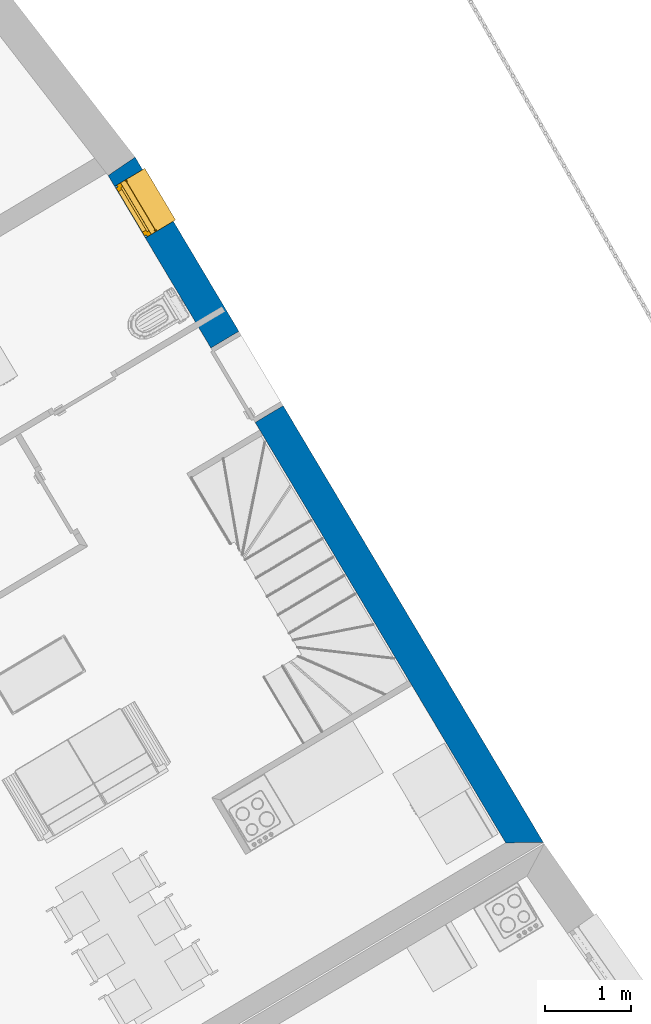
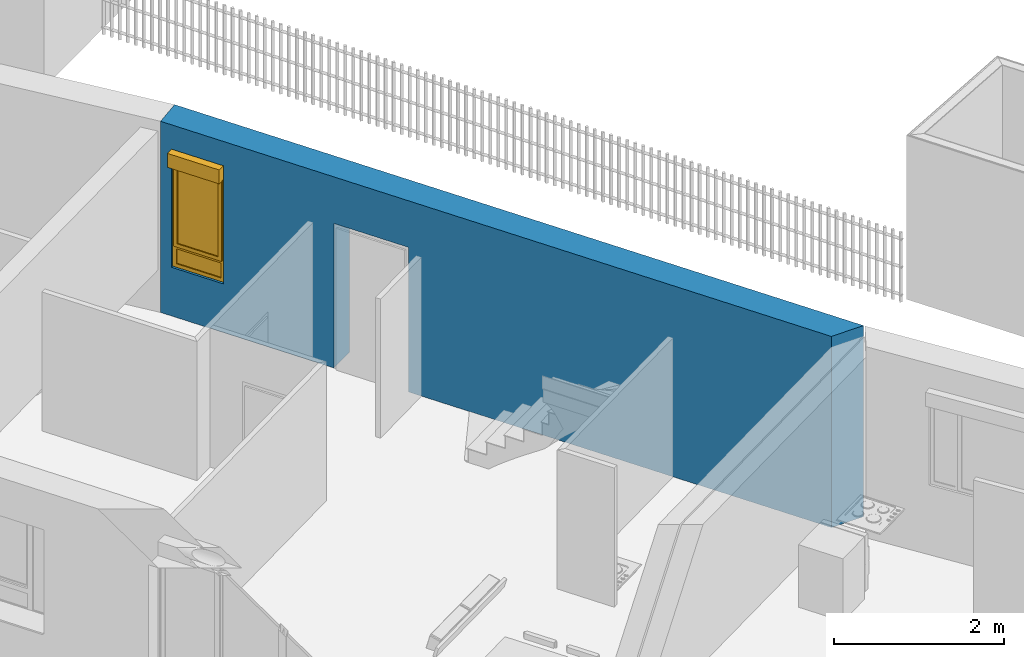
# One storey, part 47 of 195: 1 wall, 1 window, 2 openings.
"""IFC2X3 building model written with IfcOpenShell, lengths in metres."""

import ifcopenshell
import ifcopenshell.guid

model = None  # the IFC model being written
_history = None  # IfcOwnerHistory: only IFC2X3 demands one
_inside = {}  # id of a spatial element -> (the spatial element, [elements in it])
_under = {}  # id of a project, library or spatial element -> (it, [spatial elements below it])
_declared = {}  # id of a project -> (the project, [libraries it declares])
_typed = {}  # id of a type object -> (the type object, [elements of that type])
_made_of = {}  # id of a material, layer set ... -> (it, [elements and type objects made of it])


def new_model(schema):
    """Start an empty IFC model of exactly this schema.

    Asked for "IFC4X3", IfcOpenShell would pick the latest addendum, in which some entities
    have other attributes; the version numbers below select the first issue.
    IFC2X3 requires an IfcOwnerHistory on every rooted entity: one is made here for all.
    """
    global model, _history
    if schema == "IFC4X3":
        model = ifcopenshell.file(schema_version=(4, 3, 0, 0))
    else:
        model = ifcopenshell.file(schema=schema)
    _inside.clear()
    _under.clear()
    _declared.clear()
    _typed.clear()
    _made_of.clear()
    _history = None
    if model.schema == "IFC2X3":
        org = make("IfcOrganization", Name="unknown")
        user = make(
            "IfcPersonAndOrganization",
            ThePerson=make("IfcPerson", FamilyName="unknown"),
            TheOrganization=org,
        )
        app = make(
            "IfcApplication",
            ApplicationDeveloper=org,
            Version="unknown",
            ApplicationFullName="unknown",
            ApplicationIdentifier="unknown",
        )
        _history = make(
            "IfcOwnerHistory",
            OwningUser=user,
            OwningApplication=app,
            ChangeAction="ADDED",
            CreationDate=0,
        )
    return model


def make(cls, **values):
    """One entity of the class cls with the attributes given. An attribute that is None is left unset."""
    return model.create_entity(
        cls, **{name: value for name, value in values.items() if value is not None}
    )


def entity(cls, *values):
    """Any entity or typed value of the class cls, its attributes in the order of the schema. None: left unset."""
    e = model.create_entity(cls)
    for i, value in enumerate(values):
        if value is not None:
            e[i] = value
    return e


def rooted(cls, **values):
    """An entity with a GlobalId (a new one), such as an element, a storey or a relation."""
    return make(cls, GlobalId=ifcopenshell.guid.new(), OwnerHistory=_history, **values)


def si_unit(unit_type, name, prefix=None):
    """IfcSIUnit, for example si_unit("LENGTHUNIT", "METRE", prefix="MILLI")."""
    return make("IfcSIUnit", UnitType=unit_type, Prefix=prefix, Name=name)


def converted_unit(unit_type, name, factor, base, dimensions=None, offset=None):
    """IfcConversionBasedUnit, such as the inch: factor (a typed value) times the base unit."""
    return make(
        "IfcConversionBasedUnit"
        if offset is None
        else "IfcConversionBasedUnitWithOffset",
        ConversionOffset=offset,
        Dimensions=None
        if dimensions is None
        else entity("IfcDimensionalExponents", *dimensions),
        UnitType=unit_type,
        Name=name,
        ConversionFactor=make(
            "IfcMeasureWithUnit", ValueComponent=factor, UnitComponent=base
        ),
    )


def derived_unit(unit_type, elements):
    """IfcDerivedUnit: a product of units, each with its exponent."""
    return make(
        "IfcDerivedUnit",
        Elements=[
            make("IfcDerivedUnitElement", Unit=unit, Exponent=power)
            for unit, power in elements
        ],
        UnitType=unit_type,
    )


def money_unit(currency):
    """IfcMonetaryUnit."""
    return make("IfcMonetaryUnit", Currency=currency)


def assignment(units):
    """IfcUnitAssignment: the units of a project."""
    return None if units is None else make("IfcUnitAssignment", Units=units)


def point(xyz):
    """IfcCartesianPoint."""
    return None if xyz is None else make("IfcCartesianPoint", Coordinates=xyz)


def direction(xyz):
    """IfcDirection."""
    return None if xyz is None else make("IfcDirection", DirectionRatios=xyz)


def frame(location, z_axis=None, x_axis=None):
    """IfcAxis2Placement3D, a coordinate frame: its origin and axes. An axis left out is left unset."""
    return make(
        "IfcAxis2Placement3D",
        Location=point(location),
        Axis=direction(z_axis),
        RefDirection=direction(x_axis),
    )


def frame_2d(location, x_axis=None):
    """IfcAxis2Placement2D, a coordinate frame in the plane: its origin and x axis."""
    return make(
        "IfcAxis2Placement2D", Location=point(location), RefDirection=direction(x_axis)
    )


def origin_with_axes():
    """The frame at (0, 0, 0) with the z axis (0, 0, 1) and the x axis (1, 0, 0) written out."""
    return frame((0.0, 0.0, 0.0), z_axis=(0.0, 0.0, 1.0), x_axis=(1.0, 0.0, 0.0))


def origin_2d_with_axis():
    """The frame at (0, 0) in the plane with the x axis (1, 0) written out."""
    return frame_2d((0.0, 0.0), x_axis=(1.0, 0.0))


def place(relative_to, where):
    """IfcLocalPlacement: puts the frame where relative to a parent placement (None: the world)."""
    return make(
        "IfcLocalPlacement", PlacementRelTo=relative_to, RelativePlacement=where
    )


def context(
    kind, dimensions, precision=None, world=None, true_north=None, identifier=None
):
    """IfcGeometricRepresentationContext, for example the 3D "Model" context."""
    return make(
        "IfcGeometricRepresentationContext",
        ContextIdentifier=identifier,
        ContextType=kind,
        CoordinateSpaceDimension=dimensions,
        Precision=precision,
        WorldCoordinateSystem=world,
        TrueNorth=true_north,
    )


def subcontext(parent, identifier, kind, view, scale=None):
    """IfcGeometricRepresentationSubContext, for example "Body" below "Model"."""
    return make(
        "IfcGeometricRepresentationSubContext",
        ContextIdentifier=identifier,
        ContextType=kind,
        ParentContext=parent,
        TargetScale=scale,
        TargetView=view,
    )


def project(units=None, contexts=None):
    """IfcProject with its units and contexts."""
    return rooted(
        "IfcProject",
        Name="project",
        RepresentationContexts=contexts,
        UnitsInContext=assignment(units),
    )


def spatial(cls, under=None, at=None, **own):
    """A site, building, storey or space (cls), placed at a placement, below another one or the project."""
    s = rooted(cls, ObjectPlacement=at, **own)
    if under is not None:
        _under.setdefault(under.id(), (under, []))[1].append(s)
    return s


def polyline(points):
    """IfcPolyline through the points."""
    return make("IfcPolyline", Points=[point(p) for p in points])


def profile(cls, at=None, kind="AREA", **sizes):
    """A parametric profile (cls). Its sizes go by their IFC names, for example OverallWidth=200.0."""
    return make(cls, ProfileType=kind, Position=at, **sizes)


def rectangle(**sizes):
    """IfcRectangleProfileDef."""
    return profile("IfcRectangleProfileDef", **sizes)


def outline(outer, holes=None, kind="AREA"):
    """IfcArbitraryClosedProfileDef: a profile drawn as a closed curve; with holes, ...WithVoids."""
    if holes is None:
        return make("IfcArbitraryClosedProfileDef", ProfileType=kind, OuterCurve=outer)
    return make(
        "IfcArbitraryProfileDefWithVoids",
        ProfileType=kind,
        OuterCurve=outer,
        InnerCurves=holes,
    )


def extrude(swept, where, along, depth):
    """IfcExtrudedAreaSolid: the profile swept, set in the frame where, extruded along a direction by depth."""
    return make(
        "IfcExtrudedAreaSolid",
        SweptArea=swept,
        Position=where,
        ExtrudedDirection=direction(along),
        Depth=depth,
    )


def faces_of(points, faces, orient=None, outer=None):
    """IfcFace entities. A face is a list of loops; a loop is a list of indices into points, from 0.

    orient and outer hold one flag for each loop. By default every Orientation is true, the
    first loop of a face is its IfcFaceOuterBound and the others are IfcFaceBound.
    """
    made = []
    for i, loops in enumerate(faces):
        bounds = []
        for j, loop in enumerate(loops):
            is_outer = j == 0 if outer is None else outer[i][j]
            bounds.append(
                make(
                    "IfcFaceOuterBound" if is_outer else "IfcFaceBound",
                    Bound=make("IfcPolyLoop", Polygon=[points[k] for k in loop]),
                    Orientation=True if orient is None else orient[i][j],
                )
            )
        made.append(make("IfcFace", Bounds=bounds))
    return made


def open_shell(faces, orient=None, outer=None):
    """The faces of one IfcOpenShell. surface_model builds it on its shared points."""
    return ("IfcOpenShell", faces, orient, outer)


def faceted_brep(points, faces, orient=None, outer=None, voids=None):
    """IfcFacetedBrep: a solid bounded by flat faces; with voids (closed shells), ...WithVoids."""
    shared = [point(p) for p in points]
    hull = make("IfcClosedShell", CfsFaces=faces_of(shared, faces, orient, outer))
    if voids is None:
        return make("IfcFacetedBrep", Outer=hull)
    return make(
        "IfcFacetedBrepWithVoids",
        Outer=hull,
        Voids=[
            make(cls, CfsFaces=faces_of(shared, fs, o, b)) for cls, fs, o, b in voids
        ],
    )


def surface_model(cls, points, shells):
    """IfcFaceBasedSurfaceModel or IfcShellBasedSurfaceModel (cls): surfaces that need not close."""
    shared = [point(p) for p in points]
    made = [make(c, CfsFaces=faces_of(shared, fs, o, b)) for c, fs, o, b in shells]
    if cls == "IfcFaceBasedSurfaceModel":
        return make(cls, FbsmFaces=made)
    return make(cls, SbsmBoundary=made)


def shape(context_of_items, identifier, shape_type, items):
    """IfcShapeRepresentation: the items that make up one representation, for example the "Body"."""
    return make(
        "IfcShapeRepresentation",
        ContextOfItems=context_of_items,
        RepresentationIdentifier=identifier,
        RepresentationType=shape_type,
        Items=items,
    )


def source(mapping_origin, context_of_items, identifier, shape_type, items):
    """IfcRepresentationMap: a shape defined once, which mapped items show again and again."""
    return make(
        "IfcRepresentationMap",
        MappingOrigin=mapping_origin,
        MappedRepresentation=shape(context_of_items, identifier, shape_type, items),
    )


def transform(
    local_origin,
    x_axis=None,
    y_axis=None,
    z_axis=None,
    scale=None,
    scale2=None,
    scale3=None,
    uniform=True,
):
    """IfcCartesianTransformationOperator3D, or its non-uniform kind. x_axis, y_axis, z_axis: its Axis1, 2, 3."""
    if uniform:
        return make(
            "IfcCartesianTransformationOperator3D",
            Axis1=direction(x_axis),
            Axis2=direction(y_axis),
            LocalOrigin=point(local_origin),
            Scale=scale,
            Axis3=direction(z_axis),
        )
    return make(
        "IfcCartesianTransformationOperator3DnonUniform",
        Axis1=direction(x_axis),
        Axis2=direction(y_axis),
        LocalOrigin=point(local_origin),
        Scale=scale,
        Axis3=direction(z_axis),
        Scale2=scale2,
        Scale3=scale3,
    )


def mapped(mapping_source, mapping_target):
    """IfcMappedItem: shows the shape of a source again, moved by a transform."""
    return make(
        "IfcMappedItem", MappingSource=mapping_source, MappingTarget=mapping_target
    )


def material(Name=None, Category=None):
    """IfcMaterial."""
    return make("IfcMaterial", Name=Name, Category=Category)


def layer(
    of_material, thickness, ventilated=None, Name=None, Category=None, Priority=None
):
    """IfcMaterialLayer: one layer of a wall or slab, of a material (None: an air gap)."""
    return make(
        "IfcMaterialLayer",
        Material=of_material,
        LayerThickness=thickness,
        IsVentilated=ventilated,
        Name=Name,
        Category=Category,
        Priority=Priority,
    )


def layer_set(layers, Name=None):
    """IfcMaterialLayerSet."""
    return make("IfcMaterialLayerSet", MaterialLayers=layers, LayerSetName=Name)


def layer_usage(for_layer_set, set_direction, sense, offset, extent=None):
    """IfcMaterialLayerSetUsage: how a layer set lies in its element."""
    return make(
        "IfcMaterialLayerSetUsage",
        ForLayerSet=for_layer_set,
        LayerSetDirection=set_direction,
        DirectionSense=sense,
        OffsetFromReferenceLine=offset,
        ReferenceExtent=extent,
    )


def made_of(thing, what):
    """Note that an element or type object is made of a material, layer set ...; save() writes the relation."""
    if what is not None:
        _made_of.setdefault(what.id(), (what, []))[1].append(thing)
    return thing


def type_object(cls, material=None, **own):
    """A type object (cls), such as IfcWallType, which elements share."""
    return made_of(rooted(cls, **own), material)


def element(
    cls,
    number,
    at=None,
    inside=None,
    cuts=None,
    type_object=None,
    material=None,
    context=None,
    identifier="Body",
    shape_type=None,
    held_by="IfcProductDefinitionShape",
    body=None,
    shapes=None,
    **own,
):
    """One element of the class cls, such as IfcWall. Its Tag is "e" and its number.

    at: its placement. inside: the storey or other place that contains it. cuts: it is an
    opening in that element (IfcRelVoidsElement). A single representation is given by context,
    identifier, shape_type and body (its items); several are given by shapes. held_by: the class
    of the entity that holds the representations. save() writes the other relations.
    """
    e = rooted(cls, Tag="e%d" % number, ObjectPlacement=at, **own)
    if body is not None:
        shapes = [shape(context, identifier, shape_type, body)]
    if shapes is not None:
        e.Representation = make(held_by, Representations=shapes)
    if inside is not None:
        _inside.setdefault(inside.id(), (inside, []))[1].append(e)
    if cuts is not None:
        rooted(
            "IfcRelVoidsElement", RelatingBuildingElement=cuts, RelatedOpeningElement=e
        )
    if type_object is not None:
        _typed.setdefault(type_object.id(), (type_object, []))[1].append(e)
    return made_of(e, material)


def fill(opening, filler):
    """IfcRelFillsElement: the door or window that sits in an opening."""
    return rooted(
        "IfcRelFillsElement",
        RelatingOpeningElement=opening,
        RelatedBuildingElement=filler,
    )


def aggregate(whole, parts):
    """IfcRelAggregates: a whole, such as a stair, and the parts it consists of."""
    return rooted("IfcRelAggregates", RelatingObject=whole, RelatedObjects=parts)


def save(model, path):
    """Write the relations noted so far, then the file.

    IfcRelAggregates (storeys below a building ...), IfcRelContainedInSpatialStructure (elements
    in a storey), IfcRelDefinesByType, IfcRelAssociatesMaterial and IfcRelDeclares: one each for
    every whole, place, type object, material and project.
    """
    for whole, parts in _under.values():
        aggregate(whole, parts)
    for where, things in _inside.values():
        rooted(
            "IfcRelContainedInSpatialStructure",
            RelatedElements=things,
            RelatingStructure=where,
        )
    for kind, things in _typed.values():
        rooted("IfcRelDefinesByType", RelatedObjects=things, RelatingType=kind)
    for what, things in _made_of.values():
        rooted("IfcRelAssociatesMaterial", RelatedObjects=things, RelatingMaterial=what)
    for by, libraries in _declared.values():
        rooted("IfcRelDeclares", RelatingContext=by, RelatedDefinitions=libraries)
    model.write(path)


model = new_model("IFC2X3")

# Units and contexts
model_context = context("Model", 3, precision=1e-05, world=origin_with_axes(), true_north=direction((0.0, 1.0)))
body_context = subcontext(model_context, "Body", "Model", "MODEL_VIEW")
ifc_project = project(units=[si_unit("LENGTHUNIT", "METRE"), si_unit("AREAUNIT", "SQUARE_METRE"), si_unit("VOLUMEUNIT", "CUBIC_METRE"), converted_unit("PLANEANGLEUNIT", "DEGREE", entity("IfcPlaneAngleMeasure", 0.0174532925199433), si_unit("PLANEANGLEUNIT", "RADIAN"), dimensions=[0, 0, 0, 0, 0, 0, 0]), money_unit("CHF"), converted_unit("TIMEUNIT", "Year", entity("IfcTimeMeasure", 31557600.0), si_unit("TIMEUNIT", "SECOND"), dimensions=[0, 0, 1, 0, 0, 0, 0]), si_unit("MASSUNIT", "GRAM", prefix="KILO"), si_unit("THERMODYNAMICTEMPERATUREUNIT", "DEGREE_CELSIUS"), si_unit("LUMINOUSINTENSITYUNIT", "LUMEN"), si_unit("ENERGYUNIT", "JOULE", prefix="MEGA"), derived_unit("THERMALCONDUCTANCEUNIT", [(si_unit("POWERUNIT", "WATT"), 1), (si_unit("LENGTHUNIT", "METRE"), -1), (si_unit("THERMODYNAMICTEMPERATUREUNIT", "KELVIN"), -1)]), derived_unit("SPECIFICHEATCAPACITYUNIT", [(si_unit("ENERGYUNIT", "JOULE"), 1), (si_unit("MASSUNIT", "GRAM", prefix="KILO"), -1), (si_unit("THERMODYNAMICTEMPERATUREUNIT", "KELVIN"), -1)]), derived_unit("MASSDENSITYUNIT", [(si_unit("MASSUNIT", "GRAM", prefix="KILO"), 1), (si_unit("VOLUMEUNIT", "CUBIC_METRE"), -1)])], contexts=[model_context])

# Site, building, storey
site_placement = place(None, origin_with_axes())
site = spatial("IfcSite", under=ifc_project, at=site_placement, Name="Site", CompositionType="ELEMENT")
building_placement = place(site_placement, origin_with_axes())
building = spatial("IfcBuilding", under=site, at=building_placement, Name="Bâtiment", CompositionType="ELEMENT")
storey_placement = place(building_placement, origin_with_axes())
storey = spatial("IfcBuildingStorey", under=building, at=storey_placement, Name="rdc", CompositionType="ELEMENT", Elevation=0.0)

# Wall, openings, window
ifc_material_1 = material(Name="Parpaing 312445824")
ifc_layer_1 = layer(ifc_material_1, 0.22, ventilated="UNKNOWN")
ifc_material_2 = material(Name="Isolant styromousse 301821074")
ifc_layer_2 = layer(ifc_material_2, 0.16, ventilated="UNKNOWN")
ifc_layer_set = layer_set([ifc_layer_1, ifc_layer_2], Name="isol int 22+16 0836643197")
ifc_layer_usage = layer_usage(ifc_layer_set, "AXIS2", "POSITIVE", 0.0)
wall_type = type_object("IfcWallType", Name="isol int 22+16 0836643197 380", PredefinedType="NOTDEFINED")
wall_placement = place(storey_placement, frame((9549.820148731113, -1051.269473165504, 57.7), z_axis=(0.0, 0.0, 1.0), x_axis=(-0.5118298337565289, 0.8590868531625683, 0.0)))
wall = element("IfcWallStandardCase", 1, at=wall_placement, inside=storey, type_object=wall_type, material=ifc_layer_usage, Name="Mur-112", context=body_context, shape_type="SweptSolid", body=[
    extrude(outline(polyline([(0.0, 0.0), (9.30089494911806, 0.0), (9.277642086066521, 0.3799999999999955), (0.2200000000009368, 0.3799999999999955), (0.0, 0.0)])), origin_with_axes(), (0.0, 0.0, 1.0), 2.75),
])
opening_1_placement = place(wall_placement, frame((8.780433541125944, 0.0, 0.7000000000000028), z_axis=(0.0, 0.0, 1.0), x_axis=(1.0, 0.0, 0.0)))
opening_1 = element("IfcOpeningElement", 2, at=opening_1_placement, cuts=wall, Name="Fen-050", context=body_context, shape_type="Brep", body=[
    faceted_brep([(0.3500000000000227, 0.2200000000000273, 1.5), (-0.3500000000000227, 0.2200000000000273, 1.5), (-0.3499999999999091, -4.090661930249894, 1.5), (0.3500000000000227, -4.090661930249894, 1.5), (0.3500000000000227, 0.2200000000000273, 1.700000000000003), (-0.3500000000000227, 0.2200000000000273, 1.700000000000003), (-0.3500000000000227, 0.2999999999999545, 1.5), (-0.3500000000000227, 0.2999999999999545, 0.0), (-0.3499999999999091, -4.090661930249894, 0.0), (0.3500000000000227, -4.090661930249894, 0.0), (0.3500000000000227, 0.3000000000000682, 1.5), (0.3500000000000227, 0.3000000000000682, 0.0), (0.3500000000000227, 0.4800000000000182, 1.5), (0.3500000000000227, 0.4800000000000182, 1.700000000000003), (-0.3500000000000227, 0.4799999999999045, 1.700000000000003), (-0.3500000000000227, 0.4799999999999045, 1.5), (-0.3499999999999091, 4.470661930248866, 1.5), (-0.3499999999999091, 4.470661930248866, 0.0), (0.3500000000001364, 4.47066193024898, 0.0), (0.3500000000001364, 4.47066193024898, 1.5)], [[[0, 1, 2, 3]], [[1, 0, 4, 5]], [[1, 6, 7, 8, 2]], [[2, 8, 9, 3]], [[10, 0, 3, 9, 11]], [[0, 10, 12, 13, 4]], [[4, 13, 14, 5]], [[6, 1, 5, 14, 15]], [[6, 15, 16, 17, 7]], [[7, 11, 9, 8]], [[12, 10, 11, 18, 19]], [[12, 15, 14, 13]], [[15, 12, 19, 16]], [[19, 18, 17, 16]], [[11, 7, 17, 18]]]),
])
opening_2_placement = place(wall_placement, frame((6.432047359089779, 0.0, 0.0), z_axis=(0.0, 0.0, 1.0), x_axis=(1.0, 0.0, 0.0)))
element("IfcOpeningElement", 3, at=opening_2_placement, cuts=wall, Name="Por-300", context=body_context, shape_type="SweptSolid", body=[
    extrude(rectangle(XDim=1.01000001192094, YDim=2.079999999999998, at=origin_2d_with_axis()), frame((5.960373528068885e-09, -0.3799999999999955, 1.039999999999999), z_axis=(0.0, 1.0, 0.0), x_axis=(1.0, 0.0, 0.0)), (0.0, 0.0, 1.0), 0.76),
])
window_style = type_object("IfcWindowStyle", Name="Fenêtre variable 27", ConstructionType="NOTDEFINED", OperationType="DOUBLE_PANEL_HORIZONTAL", ParameterTakesPrecedence=False, Sizeable=False)
shared_shape = source(origin_with_axes(), body_context, "Body", "SurfaceModel", [
    surface_model("IfcShellBasedSurfaceModel", [(-0.3499999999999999, -0.05099999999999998, 0.05), (-0.3499999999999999, -0.05099999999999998, 0.04), (0.3499999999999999, -0.05100000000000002, 0.04000000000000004), (0.3499999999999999, -0.05100000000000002, 0.05000000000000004), (-0.3499999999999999, -0.3799999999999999, 0.02899999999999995), (0.3499999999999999, -0.3799999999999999, 0.02899999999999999), (-0.3499999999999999, -0.3799999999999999, 0.008999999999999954), (0.3499999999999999, -0.3799999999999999, 0.008999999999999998), (-0.3499999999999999, -0.3699999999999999, 0.01899999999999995), (0.3499999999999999, -0.3699999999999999, 0.019)], [open_shell([[[0, 1, 2, 3]], [[1, 4, 5, 2]], [[4, 6, 7, 5]], [[6, 8, 9, 7]]])]),
    faceted_brep([(-0.3499999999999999, -0.1299999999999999, 1.7), (-0.3469999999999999, -0.1299999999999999, 1.7), (-0.3469999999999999, 0.13, 1.7), (-0.3499999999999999, 0.13, 1.7), (-0.3499999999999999, -0.1299999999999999, 1.5), (-0.3469999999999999, -0.1299999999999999, 1.5), (-0.3469999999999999, 0.13, 1.5), (-0.3499999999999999, 0.13, 1.5)], [[[0, 1, 2, 3]], [[4, 5, 1, 0]], [[1, 5, 6, 2]], [[3, 2, 6, 7]], [[0, 3, 7, 4]], [[7, 6, 5, 4]]]),
    faceted_brep([(0.3469999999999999, -0.1299999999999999, 1.7), (0.3499999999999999, -0.1299999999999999, 1.7), (0.3499999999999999, 0.13, 1.7), (0.3469999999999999, 0.13, 1.7), (0.3469999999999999, -0.1299999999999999, 1.5), (0.3499999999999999, -0.1299999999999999, 1.5), (0.3499999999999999, 0.13, 1.5), (0.3469999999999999, 0.13, 1.5)], [[[0, 1, 2, 3]], [[4, 5, 1, 0]], [[1, 5, 6, 2]], [[3, 2, 6, 7]], [[0, 3, 7, 4]], [[7, 6, 5, 4]]]),
    faceted_brep([(-0.3469999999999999, -0.1299999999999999, 1.5), (0.3469999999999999, -0.1299999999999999, 1.5), (0.3469999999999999, -0.1299999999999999, 1.7), (-0.3469999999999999, -0.1299999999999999, 1.7), (-0.3469999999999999, -0.1269999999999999, 1.5), (0.3469999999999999, -0.127, 1.5), (0.3469999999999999, -0.127, 1.697), (0.3469999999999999, 0.127, 1.697), (0.3469999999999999, 0.127, 1.503), (0.3469999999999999, -0.108, 1.503), (0.3469999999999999, -0.108, 1.5), (0.3469999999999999, 0.13, 1.5), (0.3469999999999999, 0.13, 1.7), (-0.3469999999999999, 0.13, 1.7), (-0.3469999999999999, 0.13, 1.5), (-0.3469999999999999, -0.108, 1.5), (-0.3469999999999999, -0.108, 1.503), (-0.3469999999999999, 0.127, 1.503), (-0.3469999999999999, 0.127, 1.697), (-0.3469999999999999, -0.1269999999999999, 1.697)], [[[0, 1, 2, 3]], [[4, 5, 1, 0]], [[1, 5, 6, 7, 8, 9, 10, 11, 12, 2]], [[3, 2, 12, 13]], [[0, 3, 13, 14, 15, 16, 17, 18, 19, 4]], [[19, 6, 5, 4]], [[18, 7, 6, 19]], [[17, 8, 7, 18]], [[16, 9, 8, 17]], [[15, 10, 9, 16]], [[14, 11, 10, 15]], [[13, 12, 11, 14]]]),
    faceted_brep([(-0.3439999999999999, -0.08075423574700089, 1.585760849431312), (-0.3439999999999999, -0.08199999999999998, 1.6), (-0.3439999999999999, -0.08075423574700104, 1.614239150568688), (-0.3439999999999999, -0.07705479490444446, 1.628045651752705), (-0.3439999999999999, -0.07101408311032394, 1.641), (-0.3439999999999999, -0.06281564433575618, 1.652708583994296), (-0.3439999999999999, -0.05270858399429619, 1.662815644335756), (-0.3439999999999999, -0.04099999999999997, 1.671014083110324), (-0.3439999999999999, -0.02804565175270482, 1.677054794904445), (-0.3439999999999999, -0.01423915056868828, 1.680754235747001), (-0.3439999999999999, 0.0, 1.682), (-0.3439999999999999, 0.01423915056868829, 1.680754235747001), (-0.3439999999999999, 0.02804565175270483, 1.677054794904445), (-0.3439999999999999, 0.04099999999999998, 1.671014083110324), (-0.3439999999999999, 0.0527085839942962, 1.662815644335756), (-0.3439999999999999, 0.06281564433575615, 1.652708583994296), (-0.3439999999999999, 0.07101408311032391, 1.641), (-0.3439999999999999, 0.07705479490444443, 1.628045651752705), (-0.3439999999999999, 0.080754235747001, 1.614239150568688), (-0.3439999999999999, 0.08199999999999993, 1.6), (-0.3439999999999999, 0.08075423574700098, 1.585760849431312), (-0.3439999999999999, 0.07705479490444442, 1.571954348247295), (-0.3439999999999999, 0.0710140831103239, 1.559), (-0.3439999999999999, 0.06281564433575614, 1.547291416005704), (-0.3439999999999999, 0.05270858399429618, 1.537184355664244), (-0.3439999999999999, 0.04099999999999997, 1.528985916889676), (-0.3439999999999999, 0.02804565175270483, 1.522945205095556), (-0.3439999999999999, 0.0142391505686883, 1.519245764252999), (-0.3439999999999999, 0.0, 1.518), (-0.3439999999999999, -0.01423915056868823, 1.519245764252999), (-0.3439999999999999, -0.02804565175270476, 1.522945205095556), (-0.3439999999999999, -0.04099999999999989, 1.528985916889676), (-0.3439999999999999, -0.05270858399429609, 1.537184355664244), (-0.3439999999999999, -0.06281564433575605, 1.547291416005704), (-0.3439999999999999, -0.0710140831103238, 1.559), (-0.3439999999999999, -0.07705479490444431, 1.571954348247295), (0.3439999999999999, -0.08075423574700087, 1.585760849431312), (0.3439999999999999, -0.08199999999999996, 1.6), (0.3439999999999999, -0.08075423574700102, 1.614239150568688), (0.3439999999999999, -0.07705479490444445, 1.628045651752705), (0.3439999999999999, -0.07101408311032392, 1.641), (0.3439999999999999, -0.06281564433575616, 1.652708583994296), (0.3439999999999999, -0.05270858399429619, 1.662815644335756), (0.3439999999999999, -0.04099999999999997, 1.671014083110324), (0.3439999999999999, -0.02804565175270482, 1.677054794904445), (0.3439999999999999, -0.01423915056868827, 1.680754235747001), (0.3439999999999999, 0.0, 1.682), (0.3439999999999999, 0.01423915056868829, 1.680754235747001), (0.3439999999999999, 0.02804565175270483, 1.677054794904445), (0.3439999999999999, 0.04099999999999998, 1.671014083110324), (0.3439999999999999, 0.0527085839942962, 1.662815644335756), (0.3439999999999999, 0.06281564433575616, 1.652708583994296), (0.3439999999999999, 0.07101408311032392, 1.641), (0.3439999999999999, 0.07705479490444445, 1.628045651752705), (0.3439999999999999, 0.08075423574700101, 1.614239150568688), (0.3439999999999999, 0.08199999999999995, 1.6), (0.3439999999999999, 0.080754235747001, 1.585760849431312), (0.3439999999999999, 0.07705479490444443, 1.571954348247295), (0.3439999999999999, 0.07101408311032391, 1.559), (0.3439999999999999, 0.06281564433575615, 1.547291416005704), (0.3439999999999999, 0.05270858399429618, 1.537184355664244), (0.3439999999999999, 0.04099999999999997, 1.528985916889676), (0.3439999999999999, 0.02804565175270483, 1.522945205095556), (0.3439999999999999, 0.0142391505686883, 1.519245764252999), (0.3439999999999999, 0.0, 1.518), (0.3439999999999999, -0.01423915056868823, 1.519245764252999), (0.3439999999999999, -0.02804565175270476, 1.522945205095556), (0.3439999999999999, -0.04099999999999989, 1.528985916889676), (0.3439999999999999, -0.05270858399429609, 1.537184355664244), (0.3439999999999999, -0.06281564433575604, 1.547291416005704), (0.3439999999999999, -0.07101408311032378, 1.559), (0.3439999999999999, -0.0770547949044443, 1.571954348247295)], [[[0, 1, 2, 3, 4, 5, 6, 7, 8, 9, 10, 11, 12, 13, 14, 15, 16, 17, 18, 19, 20, 21, 22, 23, 24, 25, 26, 27, 28, 29, 30, 31, 32, 33, 34, 35]], [[0, 36, 37, 1]], [[1, 37, 38, 2]], [[2, 38, 39, 3]], [[3, 39, 40, 4]], [[4, 40, 41, 5]], [[5, 41, 42, 6]], [[6, 42, 43, 7]], [[7, 43, 44, 8]], [[8, 44, 45, 9]], [[9, 45, 46, 10]], [[10, 46, 47, 11]], [[11, 47, 48, 12]], [[12, 48, 49, 13]], [[13, 49, 50, 14]], [[14, 50, 51, 15]], [[15, 51, 52, 16]], [[16, 52, 53, 17]], [[17, 53, 54, 18]], [[18, 54, 55, 19]], [[19, 55, 56, 20]], [[20, 56, 57, 21]], [[21, 57, 58, 22]], [[22, 58, 59, 23]], [[23, 59, 60, 24]], [[24, 60, 61, 25]], [[25, 61, 62, 26]], [[26, 62, 63, 27]], [[27, 63, 64, 28]], [[28, 64, 65, 29]], [[29, 65, 66, 30]], [[30, 66, 67, 31]], [[31, 67, 68, 32]], [[32, 68, 69, 33]], [[33, 69, 70, 34]], [[34, 70, 71, 35]], [[35, 71, 36, 0]], [[36, 71, 70, 69, 68, 67, 66, 65, 64, 63, 62, 61, 60, 59, 58, 57, 56, 55, 54, 53, 52, 51, 50, 49, 48, 47, 46, 45, 44, 43, 42, 41, 40, 39, 38, 37]]]),
    faceted_brep([(0.3499999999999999, -0.105, 0.03), (0.3499999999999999, -0.1049999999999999, 1.5), (0.3499999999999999, -0.1299999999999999, 1.5), (0.3499999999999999, -0.13, 0.03), (0.3249999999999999, -0.105, 0.03), (0.3249999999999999, -0.1049999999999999, 1.5), (0.3249999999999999, -0.1079999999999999, 1.5), (0.3469999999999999, -0.1079999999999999, 1.5), (0.3469999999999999, -0.1269999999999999, 1.5), (0.3249999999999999, -0.1269999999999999, 1.5), (0.3249999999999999, -0.1299999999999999, 1.5), (0.3249999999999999, -0.13, 0.03), (0.3249999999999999, -0.127, 0.03), (0.3469999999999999, -0.127, 0.03), (0.3469999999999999, -0.108, 0.03), (0.3249999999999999, -0.108, 0.03)], [[[0, 1, 2, 3]], [[4, 5, 1, 0]], [[1, 5, 6, 7, 8, 9, 10, 2]], [[3, 2, 10, 11]], [[0, 3, 11, 12, 13, 14, 15, 4]], [[15, 6, 5, 4]], [[14, 7, 6, 15]], [[13, 8, 7, 14]], [[12, 9, 8, 13]], [[11, 10, 9, 12]]]),
    faceted_brep([(-0.3499999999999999, -0.105, 0.03), (-0.3499999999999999, -0.1299999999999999, 0.03), (-0.3499999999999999, -0.1299999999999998, 1.5), (-0.3499999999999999, -0.1049999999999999, 1.5), (-0.3249999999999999, -0.105, 0.03), (-0.3249999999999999, -0.108, 0.03), (-0.3469999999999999, -0.108, 0.03), (-0.3469999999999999, -0.1269999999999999, 0.03), (-0.3249999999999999, -0.1269999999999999, 0.03), (-0.3249999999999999, -0.1299999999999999, 0.03), (-0.3249999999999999, -0.1299999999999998, 1.5), (-0.3249999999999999, -0.1269999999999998, 1.5), (-0.3469999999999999, -0.1269999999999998, 1.5), (-0.3469999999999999, -0.1079999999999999, 1.5), (-0.3249999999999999, -0.1079999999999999, 1.5), (-0.3249999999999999, -0.1049999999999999, 1.5)], [[[0, 1, 2, 3]], [[0, 4, 5, 6, 7, 8, 9, 1]], [[1, 9, 10, 2]], [[3, 2, 10, 11, 12, 13, 14, 15]], [[4, 0, 3, 15]], [[5, 4, 15, 14]], [[6, 5, 14, 13]], [[7, 6, 13, 12]], [[8, 7, 12, 11]], [[9, 8, 11, 10]]]),
    surface_model("IfcShellBasedSurfaceModel", [(-0.3469999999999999, -0.115, 1.6), (0.3469999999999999, -0.1149999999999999, 1.6), (0.3469999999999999, -0.12, 1.6), (-0.3469999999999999, -0.12, 1.6), (-0.3469999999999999, -0.115, 1.6), (-0.3469999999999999, -0.12, 1.6), (0.3469999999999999, -0.12, 1.6), (0.3469999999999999, -0.115, 1.6)], [open_shell([[[0, 1, 2, 3]], [[4, 5, 6, 7]]])]),
    faceted_brep([(-0.3469999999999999, -0.115, 1.6), (0.3469999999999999, -0.1149999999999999, 1.6), (0.3469999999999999, -0.1166666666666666, 1.583333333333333), (-0.3469999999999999, -0.1166666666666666, 1.583333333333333), (-0.3469999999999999, -0.12, 1.6), (0.3469999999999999, -0.12, 1.6), (0.3469999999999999, -0.1216666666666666, 1.583333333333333), (0.3469999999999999, -0.1216666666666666, 1.566666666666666), (0.3469999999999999, -0.12, 1.55), (0.3469999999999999, -0.1149999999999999, 1.55), (0.3469999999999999, -0.1166666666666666, 1.566666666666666), (-0.3469999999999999, -0.1166666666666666, 1.566666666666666), (-0.3469999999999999, -0.115, 1.55), (-0.3469999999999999, -0.12, 1.55), (-0.3469999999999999, -0.1216666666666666, 1.566666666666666), (-0.3469999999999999, -0.1216666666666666, 1.583333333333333)], [[[0, 1, 2, 3]], [[4, 5, 1, 0]], [[1, 5, 6, 7, 8, 9, 10, 2]], [[3, 2, 10, 11]], [[0, 3, 11, 12, 13, 14, 15, 4]], [[15, 6, 5, 4]], [[14, 7, 6, 15]], [[13, 8, 7, 14]], [[12, 9, 8, 13]], [[11, 10, 9, 12]]]),
    faceted_brep([(-0.3469999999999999, -0.115, 1.55), (0.3469999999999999, -0.1149999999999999, 1.55), (0.3469999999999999, -0.1166666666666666, 1.533333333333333), (-0.3469999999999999, -0.1166666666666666, 1.533333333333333), (-0.3469999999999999, -0.12, 1.55), (0.3469999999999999, -0.12, 1.55), (0.3469999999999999, -0.1216666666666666, 1.533333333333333), (0.3469999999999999, -0.1216666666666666, 1.516666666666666), (0.3469999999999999, -0.12, 1.5), (0.3469999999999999, -0.1149999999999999, 1.5), (0.3469999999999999, -0.1166666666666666, 1.516666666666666), (-0.3469999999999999, -0.1166666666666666, 1.516666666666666), (-0.3469999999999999, -0.115, 1.5), (-0.3469999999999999, -0.12, 1.5), (-0.3469999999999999, -0.1216666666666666, 1.516666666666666), (-0.3469999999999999, -0.1216666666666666, 1.533333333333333)], [[[0, 1, 2, 3]], [[4, 5, 1, 0]], [[1, 5, 6, 7, 8, 9, 10, 2]], [[3, 2, 10, 11]], [[0, 3, 11, 12, 13, 14, 15, 4]], [[15, 6, 5, 4]], [[14, 7, 6, 15]], [[13, 8, 7, 14]], [[12, 9, 8, 13]], [[11, 10, 9, 12]]]),
    faceted_brep([(-0.325, 0.0, 1.45), (-0.3499999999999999, 0.0, 1.45), (-0.3499999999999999, -0.05000000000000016, 1.45), (-0.2999999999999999, -0.05000000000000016, 1.45), (-0.2999999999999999, -0.02500000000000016, 1.45), (-0.325, -0.02500000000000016, 1.45), (-0.325, 0.0, 0.3099999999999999), (-0.2999999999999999, 0.0, 0.3099999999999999), (-0.2999999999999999, 0.0, 0.265), (-0.2999999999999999, 0.0, 0.05000000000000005), (-0.3499999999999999, 0.0, 0.05000000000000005), (-0.3499999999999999, -0.04999999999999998, 0.05000000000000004), (-0.2999999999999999, -0.05000000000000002, 0.335), (-0.2999999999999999, -0.04999999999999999, 0.05000000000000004), (-0.2999999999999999, -0.05000000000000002, 0.265), (-0.2999999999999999, -0.02500000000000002, 0.335), (-0.2999999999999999, -0.02500000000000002, 0.3099999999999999), (-0.325, -0.02500000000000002, 0.3099999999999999)], [[[0, 1, 2, 3, 4, 5]], [[6, 7, 8, 9, 10, 1, 0]], [[1, 10, 11, 2]], [[12, 3, 2, 11, 13, 14]], [[4, 3, 12, 15]], [[15, 16, 17, 5, 4]], [[5, 17, 6, 0]], [[6, 17, 16, 7]], [[16, 15, 12, 14, 8, 7]], [[9, 8, 14, 13]], [[10, 9, 13, 11]]]),
    faceted_brep([(0.2999999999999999, -0.02500000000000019, 1.45), (0.2999999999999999, -0.05000000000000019, 1.45), (0.3499999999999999, -0.0500000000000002, 1.45), (0.3499999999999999, 0.0, 1.45), (0.325, 0.0, 1.45), (0.325, -0.02500000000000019, 1.45), (0.2999999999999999, -0.02500000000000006, 0.335), (0.2999999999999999, -0.05000000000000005, 0.335), (0.3499999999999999, -0.05000000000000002, 0.05000000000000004), (0.2999999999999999, -0.05000000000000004, 0.265), (0.2999999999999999, -0.05000000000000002, 0.05000000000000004), (0.3499999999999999, 0.0, 0.05000000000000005), (0.325, 0.0, 0.3099999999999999), (0.2999999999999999, 0.0, 0.05000000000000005), (0.2999999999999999, 0.0, 0.265), (0.2999999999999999, 0.0, 0.3099999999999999), (0.325, -0.02500000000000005, 0.3099999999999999), (0.2999999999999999, -0.02500000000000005, 0.3099999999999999)], [[[0, 1, 2, 3, 4, 5]], [[6, 7, 1, 0]], [[8, 2, 1, 7, 9, 10]], [[11, 3, 2, 8]], [[12, 4, 3, 11, 13, 14, 15]], [[12, 16, 5, 4]], [[5, 16, 17, 6, 0]], [[17, 15, 14, 9, 7, 6]], [[14, 13, 10, 9]], [[13, 11, 8, 10]], [[15, 17, 16, 12]]]),
    faceted_brep([(-0.2999999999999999, -0.02500000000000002, 0.335), (-0.2999999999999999, -0.05000000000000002, 0.335), (0.2999999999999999, -0.05000000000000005, 0.335), (0.2999999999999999, -0.02500000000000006, 0.335), (-0.2999999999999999, -0.02500000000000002, 0.3099999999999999), (-0.2999999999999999, 0.0, 0.3099999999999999), (-0.2999999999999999, 0.0, 0.265), (-0.2999999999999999, -0.05000000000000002, 0.265), (0.2999999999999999, -0.05000000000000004, 0.265), (0.2999999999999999, -0.02500000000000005, 0.3099999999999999), (0.2999999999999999, 0.0, 0.265), (0.2999999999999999, 0.0, 0.3099999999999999)], [[[0, 1, 2, 3]], [[4, 5, 6, 7, 1, 0]], [[8, 2, 1, 7]], [[9, 3, 2, 8, 10, 11]], [[9, 4, 0, 3]], [[5, 4, 9, 11]], [[11, 10, 6, 5]], [[6, 10, 8, 7]]]),
    faceted_brep([(-0.325, 0.0, 1.45), (-0.3499999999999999, 0.0, 1.45), (-0.3499999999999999, 0.0, 1.5), (0.3499999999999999, 0.0, 1.5), (0.3499999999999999, 0.0, 1.45), (0.325, 0.0, 1.45), (0.325, 0.0, 1.475), (-0.325, 0.0, 1.475), (-0.325, -0.02500000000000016, 1.45), (-0.2999999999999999, -0.02500000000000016, 1.45), (-0.2999999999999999, -0.05000000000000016, 1.45), (-0.3499999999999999, -0.05000000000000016, 1.45), (-0.3499999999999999, -0.05000000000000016, 1.5), (0.3499999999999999, -0.0500000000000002, 1.5), (0.3499999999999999, -0.0500000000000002, 1.45), (0.325, -0.02500000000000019, 1.45), (0.2999999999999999, -0.05000000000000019, 1.45), (0.2999999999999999, -0.02500000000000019, 1.45), (0.325, -0.0250000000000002, 1.475), (-0.325, -0.02500000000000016, 1.475)], [[[0, 1, 2, 3, 4, 5, 6, 7]], [[8, 9, 10, 11, 1, 0]], [[2, 1, 11, 12]], [[3, 2, 12, 13]], [[4, 3, 13, 14]], [[15, 5, 4, 14, 16, 17]], [[5, 15, 18, 6]], [[6, 18, 19, 7]], [[7, 19, 8, 0]], [[17, 9, 8, 19, 18, 15]], [[17, 16, 10, 9]], [[14, 13, 12, 11, 10, 16]]]),
    faceted_brep([(-0.2999999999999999, -0.04999999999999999, 0.05), (-0.2999999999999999, 0.0, 0.05000000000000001), (-0.3499999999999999, 0.0, 0.05000000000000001), (-0.3499999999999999, -0.04999999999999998, 0.05), (0.2999999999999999, -0.05000000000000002, 0.05), (0.2999999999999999, 0.0, 0.05000000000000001), (0.3499999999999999, 0.0, 0.05000000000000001), (0.3499999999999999, 0.0, 0.0), (-0.3499999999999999, 0.0, 0.0), (-0.3499999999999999, -0.04999999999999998, 0.0), (0.3499999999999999, -0.05000000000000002, 0.0), (0.3499999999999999, -0.05000000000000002, 0.05)], [[[0, 1, 2, 3]], [[4, 5, 1, 0]], [[1, 5, 6, 7, 8, 2]], [[3, 2, 8, 9]], [[0, 3, 9, 10, 11, 4]], [[11, 6, 5, 4]], [[10, 7, 6, 11]], [[9, 8, 7, 10]]]),
    faceted_brep([(-0.275, -0.02500000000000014, 1.425), (-0.275, 0.02499999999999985, 1.425), (-0.325, 0.02499999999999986, 1.425), (-0.325, -0.02500000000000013, 1.425), (-0.275, -0.02500000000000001, 0.3599999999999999), (-0.275, 0.02499999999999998, 0.3599999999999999), (-0.325, 0.02499999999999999, 0.3599999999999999), (-0.325, -0.025, 0.3599999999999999)], [[[0, 1, 2, 3]], [[4, 5, 1, 0]], [[1, 5, 6, 2]], [[3, 2, 6, 7]], [[0, 3, 7, 4]], [[7, 6, 5, 4]]]),
    faceted_brep([(0.275, -0.02500000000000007, 0.3599999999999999), (0.275, 0.02499999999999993, 0.3599999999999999), (0.325, 0.02499999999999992, 0.3599999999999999), (0.325, -0.02500000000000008, 0.3599999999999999), (0.275, -0.0250000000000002, 1.425), (0.275, 0.0249999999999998, 1.425), (0.325, 0.02499999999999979, 1.425), (0.325, -0.02500000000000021, 1.425)], [[[0, 1, 2, 3]], [[4, 5, 1, 0]], [[1, 5, 6, 2]], [[3, 2, 6, 7]], [[0, 3, 7, 4]], [[7, 6, 5, 4]]]),
    faceted_brep([(0.325, -0.02500000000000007, 0.3099999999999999), (0.325, 0.02499999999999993, 0.3099999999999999), (0.325, 0.02499999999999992, 0.3599999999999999), (0.325, -0.02500000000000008, 0.3599999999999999), (-0.325, -0.02499999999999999, 0.3099999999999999), (-0.325, 0.025, 0.3099999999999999), (-0.325, 0.02499999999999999, 0.3599999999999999), (-0.275, 0.02499999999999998, 0.3599999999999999), (0.275, 0.02499999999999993, 0.3599999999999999), (0.275, -0.02500000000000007, 0.3599999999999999), (-0.275, -0.02500000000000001, 0.3599999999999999), (-0.325, -0.025, 0.3599999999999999)], [[[0, 1, 2, 3]], [[4, 5, 1, 0]], [[1, 5, 6, 7, 8, 2]], [[3, 2, 8, 9]], [[0, 3, 9, 10, 11, 4]], [[11, 6, 5, 4]], [[10, 7, 6, 11]], [[9, 8, 7, 10]]]),
    faceted_brep([(-0.325, -0.02500000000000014, 1.475), (-0.325, 0.02499999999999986, 1.475), (-0.325, 0.02499999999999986, 1.425), (-0.325, -0.02500000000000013, 1.425), (0.325, -0.02500000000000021, 1.475), (0.325, 0.02499999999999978, 1.475), (0.325, 0.02499999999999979, 1.425), (0.275, 0.0249999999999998, 1.425), (-0.275, 0.02499999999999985, 1.425), (-0.275, -0.02500000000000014, 1.425), (0.275, -0.0250000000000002, 1.425), (0.325, -0.02500000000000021, 1.425)], [[[0, 1, 2, 3]], [[4, 5, 1, 0]], [[1, 5, 6, 7, 8, 2]], [[3, 2, 8, 9]], [[0, 3, 9, 10, 11, 4]], [[11, 6, 5, 4]], [[10, 7, 6, 11]], [[9, 8, 7, 10]]]),
    surface_model("IfcShellBasedSurfaceModel", [(-0.275, -0.01000000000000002, 0.3599999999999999), (0.275, -0.01000000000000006, 0.3599999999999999), (0.275, -0.01000000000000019, 1.425), (-0.275, -0.01000000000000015, 1.425)], [open_shell([[[0, 1, 2, 3]]])]),
    surface_model("IfcShellBasedSurfaceModel", [(-0.275, 0.009999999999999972, 0.3599999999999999), (-0.275, 0.009999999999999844, 1.425), (0.275, 0.009999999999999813, 1.425), (0.275, 0.009999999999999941, 0.3599999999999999)], [open_shell([[[0, 1, 2, 3]]])]),
    surface_model("IfcShellBasedSurfaceModel", [(-0.2999999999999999, -0.03499999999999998, 0.05), (0.2999999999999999, -0.03500000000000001, 0.05), (0.2999999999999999, -0.03500000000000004, 0.265), (-0.2999999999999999, -0.03500000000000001, 0.265)], [open_shell([[[0, 1, 2, 3]]])]),
    surface_model("IfcShellBasedSurfaceModel", [(-0.2999999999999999, -0.01499999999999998, 0.05), (-0.2999999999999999, -0.01500000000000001, 0.265), (0.2999999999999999, -0.01500000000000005, 0.265), (0.2999999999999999, -0.01500000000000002, 0.05)], [open_shell([[[0, 1, 2, 3]]])]),
])
window_placement = place(opening_1_placement, frame((-0.3499999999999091, 0.0, 0.0), z_axis=(0.0, 0.0, 1.0), x_axis=(1.0, 0.0, 0.0)))
window = element("IfcWindow", 4, at=window_placement, inside=storey, type_object=window_style, Name="Fen-050", OverallHeight=1.5, OverallWidth=0.7, context=body_context, shape_type="MappedRepresentation", body=[
    mapped(shared_shape, transform((0.3499999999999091, 0.3500000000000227, 0.0))),
])
fill(opening_1, window)

save(model, "model.ifc")
